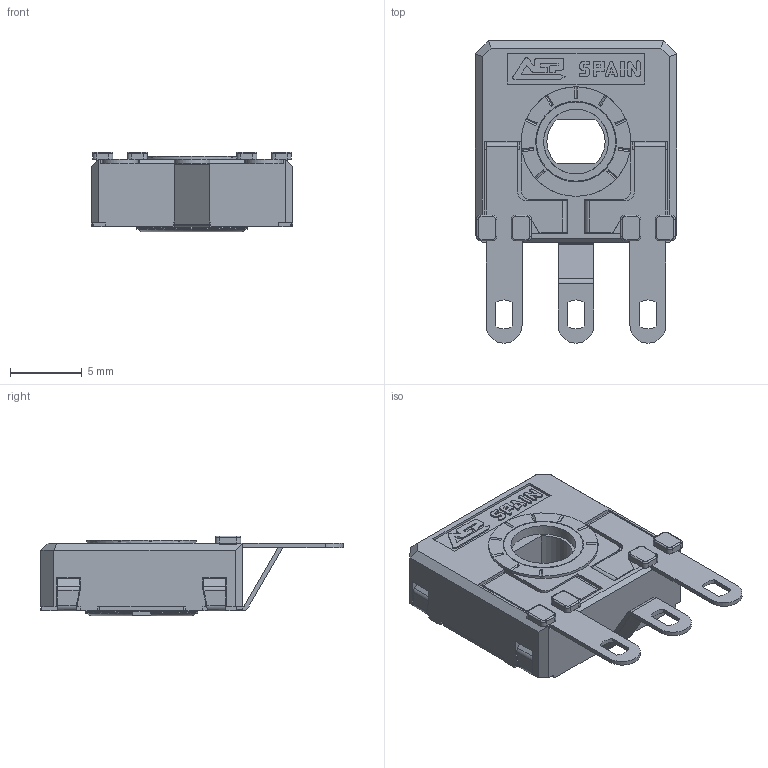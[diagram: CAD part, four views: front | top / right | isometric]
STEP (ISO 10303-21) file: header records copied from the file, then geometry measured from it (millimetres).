
FILE_DESCRIPTION(/* description */ (''),/* implementation_level */ '2;1');
FILE_NAME(/* name */ 'C:\Users\CEM\Desktop\ENVIAR\TRANSICION 3D CATALOGOS\RS14NHC0.stp',/* time_stamp */ '2025-12-10T11:21:51+01:00',/* author */ ('CEM'),/* organization */ (''),/* preprocessor_version */ 'ST-DEVELOPER v16.13',/* originating_system */ 'Autodesk Inventor 2018',/* authorisation */ '');
FILE_SCHEMA (('AP203_CONFIGURATION_CONTROLLED_3D_DESIGN_OF_MECHANICAL_PARTS_AND_ASSEMBLIES_MIM_LF { 1 0 10303 203 3 1 4 }','AUTOMOTIVE_DESIGN { 1 0 10303 214 3 1 1 }'));
Length unit declared in the file: millimetre
Products named in the file (1): CARCASA CA14 PGA
Bounding box: 14 x 21 x 5.55 mm (x, y, z)
Volume: 528.6 mm3; surface area: 1471.9 mm2
Topology: 1 solids, 1 shells, 654 faces, 1837 edges, 1180 vertices
Faces by surface type: plane 473, cylinder 144, torus 23, bspline 8, cone 6
Full cylindrical faces by diameter (mm): 4.5 x1, 5.5 x1, 5.6 x1, 5.752 x1, 6.8 x1, 7.6 x1
Entity records: 21147 total; most frequent: CARTESIAN_POINT 3862, ORIENTED_EDGE 3642, DIRECTION 3459, EDGE_CURVE 1821, LINE 1421, VECTOR 1421, VERTEX_POINT 1174, AXIS2_PLACEMENT_3D 1019
